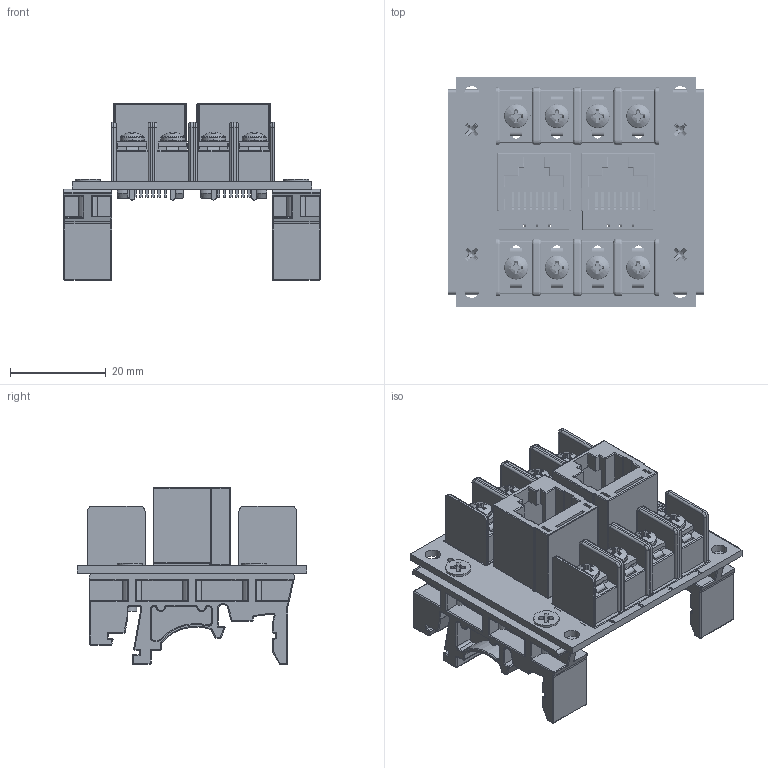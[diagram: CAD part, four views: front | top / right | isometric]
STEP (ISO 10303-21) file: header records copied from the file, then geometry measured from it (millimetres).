
FILE_DESCRIPTION(('FreeCAD Model'),'2;1');
FILE_NAME('Open CASCADE Shape Model','2025-01-25T22:50:46',(''),(''), 'Open CASCADE STEP processor 7.6','FreeCAD','Unknown');
FILE_SCHEMA(('AUTOMOTIVE_DESIGN { 1 0 10303 214 1 1 1 1 }'));
Length unit declared in the file: millimetre
Products named in the file (39): rj45-terminal; Local_CS_4114; Board_Geoms_4114; Pcb_4114; PCB_Sketch_4114; botSilks_d179; topSilks_dcad; Step_Models_4114; Top_4114; TB2_User_Library-KF8500-3P_null; K8500_1S001; K8500_Midlle_Block002; K8500_Wall005; K8500_Wall006; K8500_Pad002; K8500_Washer002; M3x6mm_92005A068; K8500_1S002; K8500_Midlle_Block003; K8500_Wall007; K8500_Wall008; K8500_Pad003; K8500_Washer003; M3x6mm_92005A069; gge391_615008138021_null; 615008138221_Housing; 615008138021_Pin_short; 615008138021_Pin_long; 615008138021_Pin_long001; 615008138021_Pin_short001; 615008138021_Pin_long002; 615008138021_Pin_short002; 615008138021_Pin_long003; 615008138021_Pin_short003; 615008138221_Houssing2; Step_Virtual_Models_4114; TopV_4114; ${REFERENCE}_User_Library-CMI00027_null; ${REFERENCE}_M3x10-Screw_null[2]
Assembly tree (46 placements, depth 6):
  rj45-terminal
    Local_CS_4114
    Board_Geoms_4114
      Pcb_4114
      PCB_Sketch_4114
      botSilks_d179
      topSilks_dcad
    Step_Models_4114
      Top_4114
        TB2_User_Library-KF8500-3P_null  x4
          K8500_1S001
            K8500_Midlle_Block002
            K8500_Wall005
            K8500_Wall006
            K8500_Pad002
            K8500_Washer002
            M3x6mm_92005A068
          K8500_1S002
            K8500_Midlle_Block003
            K8500_Wall007
            K8500_Wall008
            K8500_Pad003
            K8500_Washer003
            M3x6mm_92005A069
        gge391_615008138021_null  x2
          615008138221_Housing
          615008138021_Pin_short
          615008138021_Pin_long
          615008138021_Pin_long001
          615008138021_Pin_short001
          615008138021_Pin_long002
          615008138021_Pin_short002
          615008138021_Pin_long003
          615008138021_Pin_short003
          615008138221_Houssing2
    Step_Virtual_Models_4114
      TopV_4114
        ${REFERENCE}_User_Library-CMI00027_null  x2
        ${REFERENCE}_M3x10-Screw_null[2]  x4
Bounding box: 53.5 x 48 x 36.9 mm (x, y, z)
Volume: 21386.9 mm3; surface area: 33916.9 mm2
Topology: 75 solids, 179 shells, 3603 faces, 16618 edges, 13303 vertices
Faces by surface type: plane 1888, cylinder 1285, torus 112, revolution 108, bspline 100, cone 96, sphere 14
Full cylindrical faces by diameter (mm): 0.8 x16, 1.152 x3, 1.7 x8, 3 x4, 3.2 x12, 5.3 x4
Entity records: 108586 total; most frequent: CARTESIAN_POINT 26867, ORIENTED_EDGE 14725, DIRECTION 14600, EDGE_CURVE 11045, LINE 9753, VECTOR 9753, VERTEX_POINT 9715, AXIS2_PLACEMENT_3D 2397
